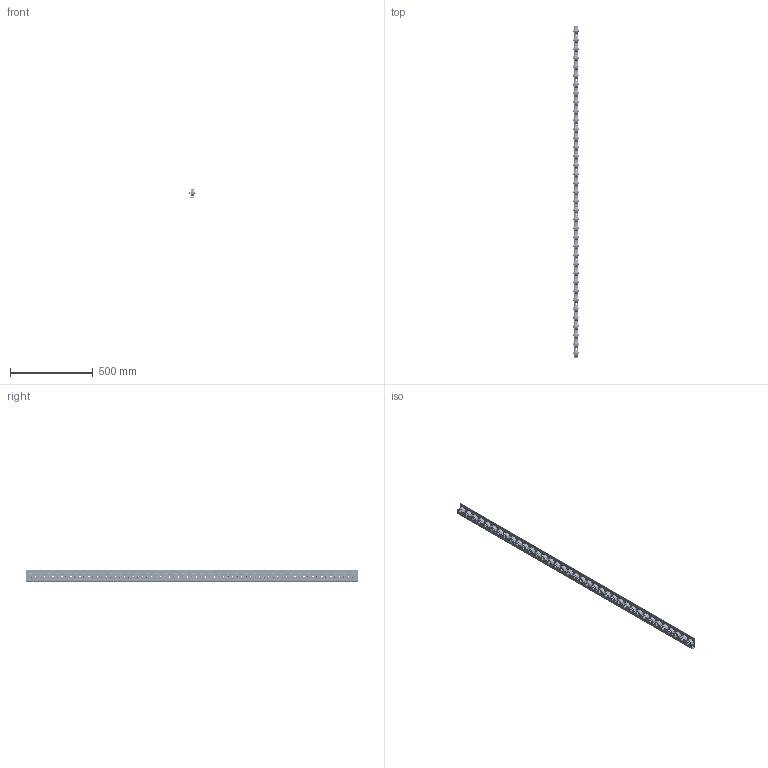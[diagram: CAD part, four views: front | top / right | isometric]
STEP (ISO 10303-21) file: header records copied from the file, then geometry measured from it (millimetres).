
FILE_DESCRIPTION( ( 'Unknown' ), '1' );
FILE_NAME( 'D:/Construktor/Listwy rolkowe 2015/Listwa T611L/Listwa T611L.stp', 'Unknown', ( 'Unknown' ), ( 'Unknown' ), 'PSStep 17.0.49', 'Unknown', ' ' );
FILE_SCHEMA( ( 'AUTOMOTIVE_DESIGN { 1 0 10303 214 1 1 1 1 }' ) );
Length unit declared in the file: millimetre
Products named in the file (9): Assem1; DIN_931_M8x35; DIN_931_M8x35-oa0; DIN_931_M8x35-oa1; Nut_DIN_980_M_M8_v10.50; Rolka 611; Rolka 611-oa2; Rolka 611-oa3; Ceownik T610L
Assembly tree (112 placements, depth 2):
  Assem1
    DIN_931_M8x35  x35
    DIN_931_M8x35-oa0
    DIN_931_M8x35-oa1
    Nut_DIN_980_M_M8_v10.50  x37
    Rolka 611  x35
    Rolka 611-oa2
    Rolka 611-oa3
    Ceownik T610L
Bounding box: 40.3 x 2000 x 70 mm (x, y, z)
Volume: 1257706 mm3; surface area: 883147.5 mm2
Topology: 112 solids, 112 shells, 3905 faces, 9756 edges, 6371 vertices
Faces by surface type: plane 2452, cylinder 676, cone 555, torus 222
Full cylindrical faces by diameter (mm): 6.466 x37, 6.647 x37, 6.697 x37, 8 x74, 8.2 x154, 8.3 x37, 8.4 x37, 11.63 x37, 12.5 x37, 14 x74, 30 x37, 32 x37, 42 x37
Entity records: 17370 total; most frequent: CARTESIAN_POINT 2522, DIRECTION 2442, ORIENTED_EDGE 1804, AXIS2_PLACEMENT_3D 1066, EDGE_LOOP 962, EDGE_CURVE 902, VERTEX_POINT 722, FACE_OUTER_BOUND 621
